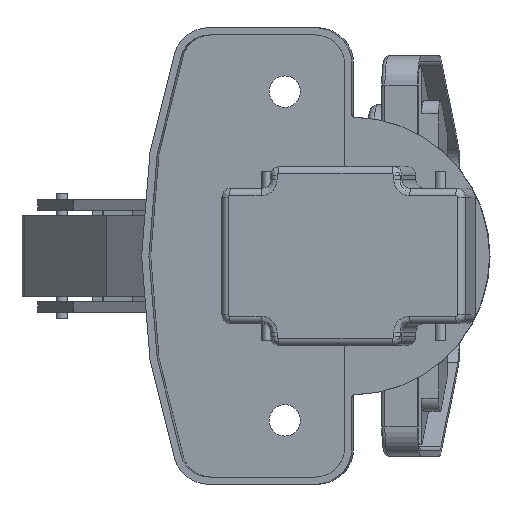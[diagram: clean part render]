
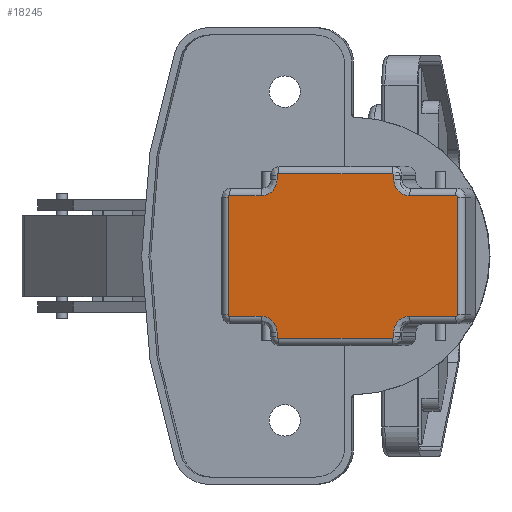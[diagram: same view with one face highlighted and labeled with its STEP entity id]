
A CAD part, left-side view. The second image highlights one B-rep face of the part: STEP entity #18245.
In plain terms, the highlighted planar face has unit normal (-0.992, 0.127, 0) as drawn and (-0.224, -0.975, 0) by its records, which use the part's own axes.
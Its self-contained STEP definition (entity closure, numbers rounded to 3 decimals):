
#291=ELLIPSE('',#19662,2.204,2.2);
#293=ELLIPSE('',#19667,0.2,0.2);
#295=ELLIPSE('',#19672,0.2,0.2);
#297=ELLIPSE('',#19677,2.204,2.2);
#299=ELLIPSE('',#19692,2.204,2.2);
#301=ELLIPSE('',#19697,0.2,0.2);
#303=ELLIPSE('',#19702,0.2,0.2);
#305=ELLIPSE('',#19707,2.204,2.2);
#725=PLANE('',#19722);
#1488=FACE_OUTER_BOUND('',#2556,.T.);
#2556=EDGE_LOOP('',(#14084,#14085,#14086,#14087,#14088,#14089,#14090,#14091,
#14092,#14093,#14094,#14095,#14096,#14097,#14098,#14099,#14100,#14101,#14102,
#14103,#14104,#14105,#14106,#14107));
#3806=LINE('',#30713,#5441);
#3808=LINE('',#30733,#5443);
#3810=LINE('',#30769,#5445);
#3812=LINE('',#30805,#5447);
#3814=LINE('',#30841,#5449);
#3816=LINE('',#30877,#5451);
#3818=LINE('',#30897,#5453);
#3820=LINE('',#30917,#5455);
#3822=LINE('',#30953,#5457);
#3824=LINE('',#30989,#5459);
#3826=LINE('',#31025,#5461);
#3827=LINE('',#31057,#5462);
#5441=VECTOR('',#23178,16.1);
#5443=VECTOR('',#23190,6.348);
#5445=VECTOR('',#23202,0.6);
#5447=VECTOR('',#23214,15.721);
#5449=VECTOR('',#23226,0.6);
#5451=VECTOR('',#23238,4.323);
#5453=VECTOR('',#23250,16.1);
#5455=VECTOR('',#23262,4.323);
#5457=VECTOR('',#23274,0.6);
#5459=VECTOR('',#23286,15.721);
#5461=VECTOR('',#23298,0.6);
#5462=VECTOR('',#23307,6.348);
#6723=CIRCLE('',#19650,0.2);
#6729=CIRCLE('',#19657,0.2);
#6741=CIRCLE('',#19682,0.2);
#6745=CIRCLE('',#19687,0.2);
#7965=VERTEX_POINT('',#30701);
#7966=VERTEX_POINT('',#30703);
#7968=VERTEX_POINT('',#30709);
#7970=VERTEX_POINT('',#30723);
#7972=VERTEX_POINT('',#30729);
#7974=VERTEX_POINT('',#30759);
#7976=VERTEX_POINT('',#30765);
#7978=VERTEX_POINT('',#30795);
#7980=VERTEX_POINT('',#30801);
#7982=VERTEX_POINT('',#30831);
#7984=VERTEX_POINT('',#30837);
#7986=VERTEX_POINT('',#30867);
#7988=VERTEX_POINT('',#30873);
#7990=VERTEX_POINT('',#30887);
#7992=VERTEX_POINT('',#30893);
#7994=VERTEX_POINT('',#30907);
#7996=VERTEX_POINT('',#30913);
#7998=VERTEX_POINT('',#30943);
#8000=VERTEX_POINT('',#30949);
#8002=VERTEX_POINT('',#30979);
#8004=VERTEX_POINT('',#30985);
#8006=VERTEX_POINT('',#31015);
#8008=VERTEX_POINT('',#31021);
#8010=VERTEX_POINT('',#31051);
#10088=EDGE_CURVE('',#7965,#7966,#6723,.T.);
#10093=EDGE_CURVE('',#7966,#7968,#3806,.T.);
#10096=EDGE_CURVE('',#7968,#7970,#6729,.T.);
#10099=EDGE_CURVE('',#7970,#7972,#3808,.T.);
#10102=EDGE_CURVE('',#7972,#7974,#291,.T.);
#10105=EDGE_CURVE('',#7974,#7976,#3810,.T.);
#10108=EDGE_CURVE('',#7976,#7978,#293,.T.);
#10111=EDGE_CURVE('',#7978,#7980,#3812,.T.);
#10114=EDGE_CURVE('',#7980,#7982,#295,.T.);
#10117=EDGE_CURVE('',#7982,#7984,#3814,.T.);
#10120=EDGE_CURVE('',#7984,#7986,#297,.T.);
#10123=EDGE_CURVE('',#7986,#7988,#3816,.T.);
#10126=EDGE_CURVE('',#7988,#7990,#6741,.T.);
#10129=EDGE_CURVE('',#7990,#7992,#3818,.T.);
#10132=EDGE_CURVE('',#7992,#7994,#6745,.T.);
#10135=EDGE_CURVE('',#7994,#7996,#3820,.T.);
#10138=EDGE_CURVE('',#7996,#7998,#299,.T.);
#10141=EDGE_CURVE('',#7998,#8000,#3822,.T.);
#10144=EDGE_CURVE('',#8000,#8002,#301,.T.);
#10147=EDGE_CURVE('',#8002,#8004,#3824,.T.);
#10150=EDGE_CURVE('',#8004,#8006,#303,.T.);
#10153=EDGE_CURVE('',#8006,#8008,#3826,.T.);
#10156=EDGE_CURVE('',#8008,#8010,#305,.T.);
#10157=EDGE_CURVE('',#8010,#7965,#3827,.T.);
#14084=ORIENTED_EDGE('',*,*,#10088,.F.);
#14085=ORIENTED_EDGE('',*,*,#10157,.F.);
#14086=ORIENTED_EDGE('',*,*,#10156,.F.);
#14087=ORIENTED_EDGE('',*,*,#10153,.F.);
#14088=ORIENTED_EDGE('',*,*,#10150,.F.);
#14089=ORIENTED_EDGE('',*,*,#10147,.F.);
#14090=ORIENTED_EDGE('',*,*,#10144,.F.);
#14091=ORIENTED_EDGE('',*,*,#10141,.F.);
#14092=ORIENTED_EDGE('',*,*,#10138,.F.);
#14093=ORIENTED_EDGE('',*,*,#10135,.F.);
#14094=ORIENTED_EDGE('',*,*,#10132,.F.);
#14095=ORIENTED_EDGE('',*,*,#10129,.F.);
#14096=ORIENTED_EDGE('',*,*,#10126,.F.);
#14097=ORIENTED_EDGE('',*,*,#10123,.F.);
#14098=ORIENTED_EDGE('',*,*,#10120,.F.);
#14099=ORIENTED_EDGE('',*,*,#10117,.F.);
#14100=ORIENTED_EDGE('',*,*,#10114,.F.);
#14101=ORIENTED_EDGE('',*,*,#10111,.F.);
#14102=ORIENTED_EDGE('',*,*,#10108,.F.);
#14103=ORIENTED_EDGE('',*,*,#10105,.F.);
#14104=ORIENTED_EDGE('',*,*,#10102,.F.);
#14105=ORIENTED_EDGE('',*,*,#10099,.F.);
#14106=ORIENTED_EDGE('',*,*,#10096,.F.);
#14107=ORIENTED_EDGE('',*,*,#10093,.F.);
#18245=ADVANCED_FACE('',(#1488),#725,.T.);
#19650=AXIS2_PLACEMENT_3D('',#30704,#23167,#23168);
#19657=AXIS2_PLACEMENT_3D('',#30727,#23183,#23184);
#19662=AXIS2_PLACEMENT_3D('',#30763,#23195,#23196);
#19667=AXIS2_PLACEMENT_3D('',#30799,#23207,#23208);
#19672=AXIS2_PLACEMENT_3D('',#30835,#23219,#23220);
#19677=AXIS2_PLACEMENT_3D('',#30871,#23231,#23232);
#19682=AXIS2_PLACEMENT_3D('',#30891,#23243,#23244);
#19687=AXIS2_PLACEMENT_3D('',#30911,#23255,#23256);
#19692=AXIS2_PLACEMENT_3D('',#30947,#23267,#23268);
#19697=AXIS2_PLACEMENT_3D('',#30983,#23279,#23280);
#19702=AXIS2_PLACEMENT_3D('',#31019,#23291,#23292);
#19707=AXIS2_PLACEMENT_3D('',#31055,#23303,#23304);
#19722=AXIS2_PLACEMENT_3D('',#31086,#23348,#23349);
#23167=DIRECTION('center_axis',(0.224,0.975,0.));
#23168=DIRECTION('ref_axis',(0.689,-0.158,0.707));
#23178=DIRECTION('',(0.,0.,-1.));
#23183=DIRECTION('center_axis',(0.224,0.975,0.));
#23184=DIRECTION('ref_axis',(0.689,-0.158,-0.707));
#23190=DIRECTION('',(-0.975,0.224,0.));
#23195=DIRECTION('center_axis',(-0.224,-0.975,0.));
#23196=DIRECTION('ref_axis',(-0.975,0.224,0.));
#23202=DIRECTION('',(0.,0.,-1.));
#23207=DIRECTION('center_axis',(0.224,0.975,0.));
#23208=DIRECTION('ref_axis',(0.975,-0.224,0.));
#23214=DIRECTION('',(-0.975,0.224,0.));
#23219=DIRECTION('center_axis',(0.224,0.975,0.));
#23220=DIRECTION('ref_axis',(-0.975,0.224,0.));
#23226=DIRECTION('',(0.,0.,1.));
#23231=DIRECTION('center_axis',(-0.224,-0.975,0.));
#23232=DIRECTION('ref_axis',(0.975,-0.224,0.));
#23238=DIRECTION('',(-0.975,0.224,0.));
#23243=DIRECTION('center_axis',(0.224,0.975,0.));
#23244=DIRECTION('ref_axis',(-0.689,0.158,-0.707));
#23250=DIRECTION('',(0.,0.,1.));
#23255=DIRECTION('center_axis',(0.224,0.975,0.));
#23256=DIRECTION('ref_axis',(-0.689,0.158,0.707));
#23262=DIRECTION('',(0.975,-0.224,0.));
#23267=DIRECTION('center_axis',(-0.224,-0.975,0.));
#23268=DIRECTION('ref_axis',(0.975,-0.224,0.));
#23274=DIRECTION('',(0.,0.,1.));
#23279=DIRECTION('center_axis',(0.224,0.975,0.));
#23280=DIRECTION('ref_axis',(-0.975,0.224,0.));
#23286=DIRECTION('',(0.975,-0.224,0.));
#23291=DIRECTION('center_axis',(0.224,0.975,0.));
#23292=DIRECTION('ref_axis',(0.975,-0.224,0.));
#23298=DIRECTION('',(0.,0.,-1.));
#23303=DIRECTION('center_axis',(-0.224,-0.975,0.));
#23304=DIRECTION('ref_axis',(-0.975,0.224,0.));
#23307=DIRECTION('',(0.975,-0.224,0.));
#23348=DIRECTION('center_axis',(-0.224,-0.975,0.));
#23349=DIRECTION('ref_axis',(0.975,-0.224,0.));
#30701=CARTESIAN_POINT('',(-42.598,-21.639,8.25));
#30703=CARTESIAN_POINT('',(-42.403,-21.684,8.05));
#30704=CARTESIAN_POINT('Origin',(-42.598,-21.639,8.05));
#30709=CARTESIAN_POINT('',(-42.403,-21.684,-8.05));
#30713=CARTESIAN_POINT('',(-42.403,-21.684,0.));
#30723=CARTESIAN_POINT('',(-42.598,-21.639,-8.25));
#30727=CARTESIAN_POINT('Origin',(-42.598,-21.639,-8.05));
#30729=CARTESIAN_POINT('',(-48.785,-20.216,-8.25));
#30733=CARTESIAN_POINT('',(-59.871,-17.668,-8.25));
#30759=CARTESIAN_POINT('',(-50.933,-19.723,-10.45));
#30763=CARTESIAN_POINT('Origin',(-48.785,-20.216,-10.45));
#30765=CARTESIAN_POINT('',(-50.933,-19.723,-11.05));
#30769=CARTESIAN_POINT('',(-50.933,-19.723,-6.125));
#30795=CARTESIAN_POINT('',(-51.128,-19.678,-11.25));
#30799=CARTESIAN_POINT('Origin',(-51.128,-19.678,-11.05));
#30801=CARTESIAN_POINT('',(-66.449,-16.155,-11.25));
#30805=CARTESIAN_POINT('',(-65.988,-16.261,-11.25));
#30831=CARTESIAN_POINT('',(-66.644,-16.111,-11.05));
#30835=CARTESIAN_POINT('Origin',(-66.449,-16.155,-11.05));
#30837=CARTESIAN_POINT('',(-66.644,-16.111,-10.45));
#30841=CARTESIAN_POINT('',(-66.644,-16.111,-6.125));
#30867=CARTESIAN_POINT('',(-68.792,-15.617,-8.25));
#30871=CARTESIAN_POINT('Origin',(-68.792,-15.617,-10.45));
#30873=CARTESIAN_POINT('',(-73.005,-14.648,-8.25));
#30877=CARTESIAN_POINT('',(-72.469,-14.771,-8.25));
#30887=CARTESIAN_POINT('',(-73.2,-14.603,-8.05));
#30891=CARTESIAN_POINT('Origin',(-73.005,-14.648,-8.05));
#30893=CARTESIAN_POINT('',(-73.2,-14.603,8.05));
#30897=CARTESIAN_POINT('',(-73.2,-14.603,0.));
#30907=CARTESIAN_POINT('',(-73.005,-14.648,8.25));
#30911=CARTESIAN_POINT('Origin',(-73.005,-14.648,8.05));
#30913=CARTESIAN_POINT('',(-68.792,-15.617,8.25));
#30917=CARTESIAN_POINT('',(-72.469,-14.771,8.25));
#30943=CARTESIAN_POINT('',(-66.644,-16.111,10.45));
#30947=CARTESIAN_POINT('Origin',(-68.792,-15.617,10.45));
#30949=CARTESIAN_POINT('',(-66.644,-16.111,11.05));
#30953=CARTESIAN_POINT('',(-66.644,-16.111,6.125));
#30979=CARTESIAN_POINT('',(-66.449,-16.155,11.25));
#30983=CARTESIAN_POINT('Origin',(-66.449,-16.155,11.05));
#30985=CARTESIAN_POINT('',(-51.128,-19.678,11.25));
#30989=CARTESIAN_POINT('',(-65.988,-16.261,11.25));
#31015=CARTESIAN_POINT('',(-50.933,-19.723,11.05));
#31019=CARTESIAN_POINT('Origin',(-51.128,-19.678,11.05));
#31021=CARTESIAN_POINT('',(-50.933,-19.723,10.45));
#31025=CARTESIAN_POINT('',(-50.933,-19.723,6.125));
#31051=CARTESIAN_POINT('',(-48.785,-20.216,8.25));
#31055=CARTESIAN_POINT('Origin',(-48.785,-20.216,10.45));
#31057=CARTESIAN_POINT('',(-59.871,-17.668,8.25));
#31086=CARTESIAN_POINT('Origin',(-74.174,-14.379,0.));
